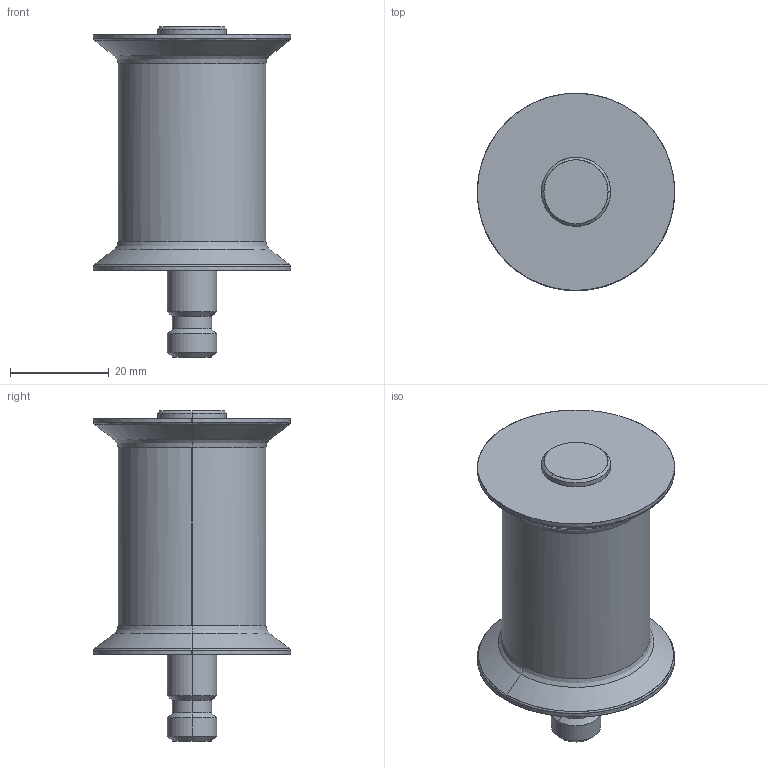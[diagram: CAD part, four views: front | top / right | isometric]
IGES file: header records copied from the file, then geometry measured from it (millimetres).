
Global section: file name: E:\UnigraphicsGraphicData\MISUMI_PRESS-PARTS\IGES\3d_gdrtat30-38_01790_r00.igs; native system: NX V5.0; preprocessor: UGS NX IGES V5.0; author: MISUMI; date: 20110105.160705; units: millimetre
Bounding box: 40 x 40 x 67 mm (x, y, z)
Surface area: 11584.3 mm2 (no closed solid volume)
Topology: 0 solids, 0 shells, 44 faces, 248 edges, 248 vertices
Faces by surface type: bspline 44
